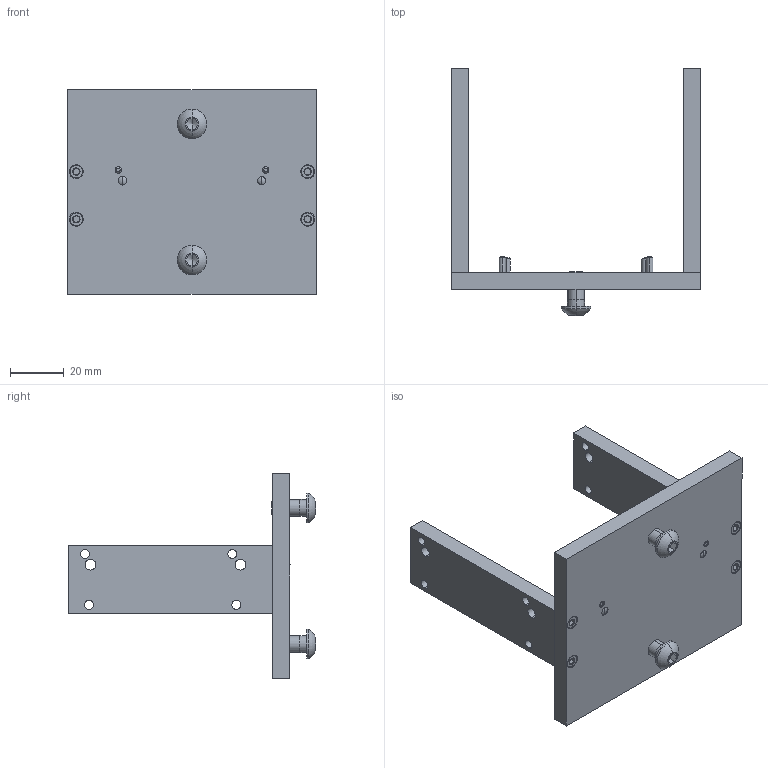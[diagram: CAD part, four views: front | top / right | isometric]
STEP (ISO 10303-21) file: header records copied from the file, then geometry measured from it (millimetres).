
FILE_DESCRIPTION(/* description */ ('VariCAD 2015-2.05 AP-203'),/* implementation_level */ '2;1');
FILE_NAME(/* name */ 'CADalsaP3_3patterns_final.stp',/* time_stamp */ '2015-08-09T17:22:16-04:00',/* author */ (''),/* organization */ (''),/* preprocessor_version */ 'ST-DEVELOPER v14',/* originating_system */ 'VariCAD 2015-2.05; kernel version (20130303)',/* authorisation */ '');
FILE_SCHEMA (('CONFIG_CONTROL_DESIGN'));
Products named in the file (16): CADalsaP3_3patterns_final; Screw 1/4x; Pin x12
Assembly tree (15 placements, depth 2):
  CADalsaP3_3patterns_final
    (unnamed)
    (unnamed)
    (unnamed)
    (unnamed)
    (unnamed)
    (unnamed)
    Screw 1/4x
    (unnamed)
    Pin x12
    Pin x12
    (unnamed)
    (unnamed)
    Screw 1/4x
    (unnamed)
    (unnamed)
Bounding box: 92.7 x 92.25 x 76.2 mm (x, y, z)
Volume: 69810.6 mm3; surface area: 30922.1 mm2
Topology: 15 solids, 15 shells, 688 faces, 1780 edges, 1142 vertices
Faces by surface type: cylinder 446, plane 116, cone 102, bspline 12, sphere 12
Entity records: 39278 total; most frequent: CARTESIAN_POINT 22948, ORIENTED_EDGE 3536, DIRECTION 2744, EDGE_CURVE 1768, VERTEX_POINT 1142, AXIS2_PLACEMENT_3D 1056, B_SPLINE_CURVE_WITH_KNOTS 802, EDGE_LOOP 764
